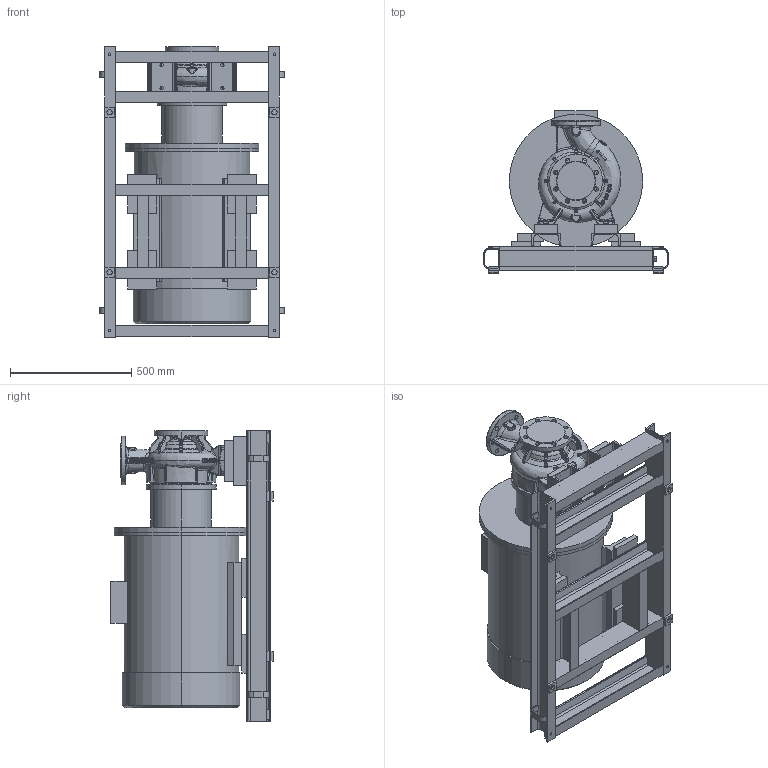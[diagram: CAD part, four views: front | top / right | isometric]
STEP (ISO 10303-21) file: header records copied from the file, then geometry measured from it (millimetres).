
FILE_DESCRIPTION (( 'STEP AP203' ), '1' );
FILE_NAME ('KRM 100-80-200-2-55.STEP', '2026-09-23T11:10:10', ( '' ), ( '' ), 'SwSTEP 2.0', 'SolidWorks 2016', '' );
FILE_SCHEMA (( 'CONFIG_CONTROL_DESIGN' ));
Length unit declared in the file: millimetre
Products named in the file (1): KRM 100-80-200-2-55
Bounding box: 761.08 x 670 x 1202.5 mm (x, y, z)
Volume: 173789388.9 mm3; surface area: 6103873.5 mm2
Topology: 48 solids, 48 shells, 1785 faces, 4299 edges, 2627 vertices
Faces by surface type: bspline 620, plane 491, cylinder 428, torus 119, cone 99, sphere 28
Entity records: 103718 total; most frequent: CARTESIAN_POINT 66585, ORIENTED_EDGE 8578, DIRECTION 6524, EDGE_CURVE 4289, VERTEX_POINT 2627, AXIS2_PLACEMENT_3D 2511, EDGE_LOOP 1916, FACE_OUTER_BOUND 1785
